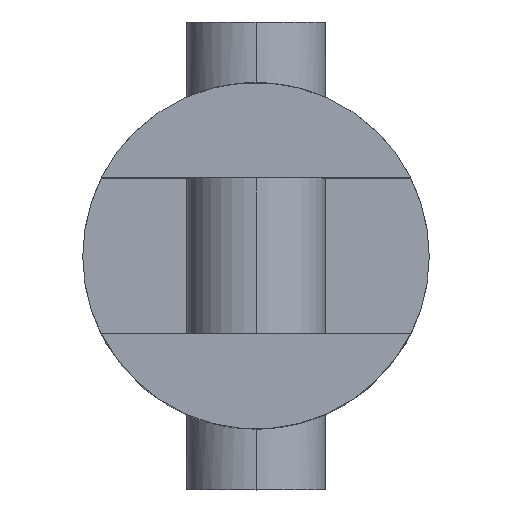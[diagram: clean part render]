
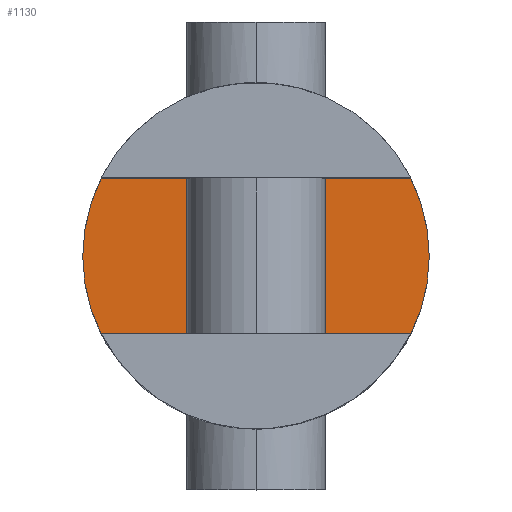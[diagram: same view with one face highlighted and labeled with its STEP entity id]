
A CAD part, top view. The second image highlights one B-rep face of the part: STEP entity #1130.
In plain terms, the highlighted planar face has unit normal (0, 0, 1).
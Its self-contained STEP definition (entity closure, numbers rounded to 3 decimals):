
#25 = DIRECTION ( 'NONE',  ( -1., 0., 0. ) ) ;
#49 = ORIENTED_EDGE ( 'NONE', *, *, #360, .T. ) ;
#58 = VERTEX_POINT ( 'NONE', #1098 ) ;
#82 = CIRCLE ( 'NONE', #637, 10. ) ;
#121 = CARTESIAN_POINT ( 'NONE',  ( 0., 0., 5. ) ) ;
#133 = VERTEX_POINT ( 'NONE', #425 ) ;
#141 = CARTESIAN_POINT ( 'NONE',  ( 8.93, 4.5, 5. ) ) ;
#146 = CARTESIAN_POINT ( 'NONE',  ( -10., -4.5, 5. ) ) ;
#153 = DIRECTION ( 'NONE',  ( -1., 0., 0. ) ) ;
#212 = DIRECTION ( 'NONE',  ( 1., 0., 0. ) ) ;
#224 = CARTESIAN_POINT ( 'NONE',  ( 0., 0., 5. ) ) ;
#252 = ORIENTED_EDGE ( 'NONE', *, *, #704, .T. ) ;
#297 = CARTESIAN_POINT ( 'NONE',  ( -10., 4.5, 5. ) ) ;
#360 = EDGE_CURVE ( 'NONE', #1190, #58, #797, .T. ) ;
#365 = DIRECTION ( 'NONE',  ( 0., 0., 1. ) ) ;
#404 = PLANE ( 'NONE',  #689 ) ;
#425 = CARTESIAN_POINT ( 'NONE',  ( 10., 0., 5. ) ) ;
#428 = ORIENTED_EDGE ( 'NONE', *, *, #749, .T. ) ;
#452 = CIRCLE ( 'NONE', #991, 10. ) ;
#453 = AXIS2_PLACEMENT_3D ( 'NONE', #121, #1268, #1028 ) ;
#461 = DIRECTION ( 'NONE',  ( 0., 0., 1. ) ) ;
#478 = CARTESIAN_POINT ( 'NONE',  ( 0., 0., 5. ) ) ;
#498 = VECTOR ( 'NONE', #212, 1000. ) ;
#514 = VERTEX_POINT ( 'NONE', #141 ) ;
#539 = ORIENTED_EDGE ( 'NONE', *, *, #644, .F. ) ;
#555 = CIRCLE ( 'NONE', #1046, 10. ) ;
#614 = ORIENTED_EDGE ( 'NONE', *, *, #1179, .T. ) ;
#637 = AXIS2_PLACEMENT_3D ( 'NONE', #478, #365, #25 ) ;
#644 = EDGE_CURVE ( 'NONE', #1261, #514, #1363, .T. ) ;
#689 = AXIS2_PLACEMENT_3D ( 'NONE', #146, #1348, #153 ) ;
#697 = EDGE_CURVE ( 'NONE', #1261, #1438, #1275, .T. ) ;
#704 = EDGE_CURVE ( 'NONE', #58, #133, #555, .T. ) ;
#749 = EDGE_CURVE ( 'NONE', #1438, #1190, #82, .T. ) ;
#751 = CARTESIAN_POINT ( 'NONE',  ( 0., 0., 5. ) ) ;
#773 = VECTOR ( 'NONE', #907, 1000. ) ;
#797 = LINE ( 'NONE', #1270, #498 ) ;
#907 = DIRECTION ( 'NONE',  ( 1., 0., 0. ) ) ;
#915 = CARTESIAN_POINT ( 'NONE',  ( -8.93, -4.5, 5. ) ) ;
#991 = AXIS2_PLACEMENT_3D ( 'NONE', #751, #1330, #1157 ) ;
#1028 = DIRECTION ( 'NONE',  ( -1., 0., 0. ) ) ;
#1046 = AXIS2_PLACEMENT_3D ( 'NONE', #224, #461, #1164 ) ;
#1098 = CARTESIAN_POINT ( 'NONE',  ( 8.93, -4.5, 5. ) ) ;
#1130 = ADVANCED_FACE ( 'NONE', ( #1338 ), #404, .F. ) ;
#1157 = DIRECTION ( 'NONE',  ( -1., 0., 0. ) ) ;
#1164 = DIRECTION ( 'NONE',  ( -1., 0., 0. ) ) ;
#1178 = ORIENTED_EDGE ( 'NONE', *, *, #697, .T. ) ;
#1179 = EDGE_CURVE ( 'NONE', #133, #514, #452, .T. ) ;
#1187 = CARTESIAN_POINT ( 'NONE',  ( -8.93, 4.5, 5. ) ) ;
#1190 = VERTEX_POINT ( 'NONE', #915 ) ;
#1241 = EDGE_LOOP ( 'NONE', ( #49, #252, #614, #539, #1178, #428 ) ) ;
#1243 = CARTESIAN_POINT ( 'NONE',  ( -10., 0., 5. ) ) ;
#1261 = VERTEX_POINT ( 'NONE', #1187 ) ;
#1268 = DIRECTION ( 'NONE',  ( 0., 0., 1. ) ) ;
#1270 = CARTESIAN_POINT ( 'NONE',  ( -10., -4.5, 5. ) ) ;
#1275 = CIRCLE ( 'NONE', #453, 10. ) ;
#1330 = DIRECTION ( 'NONE',  ( 0., 0., 1. ) ) ;
#1338 = FACE_OUTER_BOUND ( 'NONE', #1241, .T. ) ;
#1348 = DIRECTION ( 'NONE',  ( 0., 0., -1. ) ) ;
#1363 = LINE ( 'NONE', #297, #773 ) ;
#1438 = VERTEX_POINT ( 'NONE', #1243 ) ;
